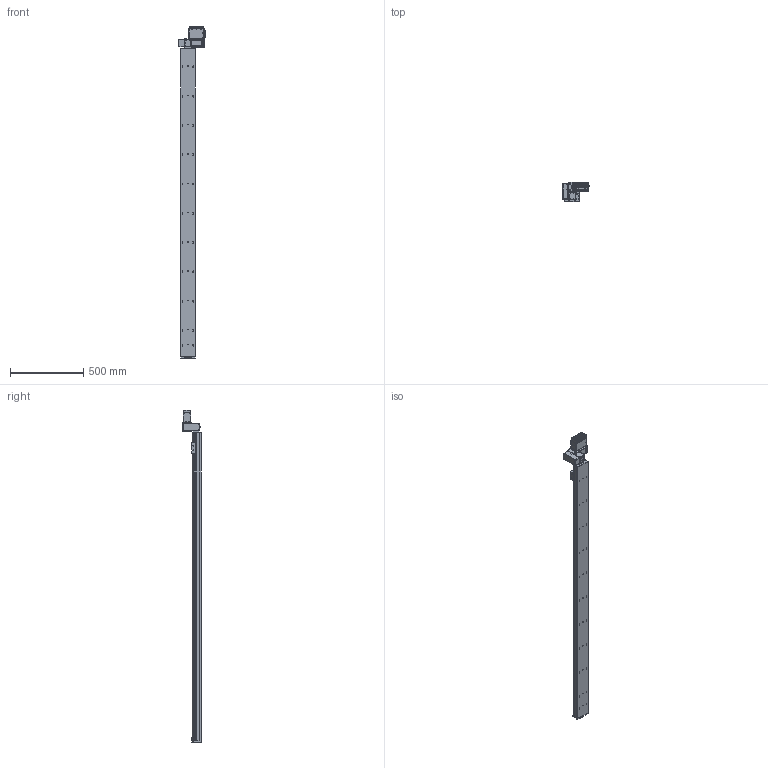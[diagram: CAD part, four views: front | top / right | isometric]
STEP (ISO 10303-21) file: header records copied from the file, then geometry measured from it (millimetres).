
FILE_DESCRIPTION (( 'STEP AP203' ), '1' );
FILE_NAME ('S10 TBN LT S2100.STEP', '2012-06-19T10:21:14', ( 'Conseil Régional Haute-Normandie' ), ( 'Conseil Régional Haute-Normandie' ), 'SwSTEP 2.0', 'SolidWorks 2010', '' );
FILE_SCHEMA (( 'CONFIG_CONTROL_DESIGN' ));
Length unit declared in the file: millimetre
Products named in the file (30): embout; Vis M5 L16-2_Default_1; palette tbn; vis M5 L5_Default; BU45 Carte d''axe A11_5; Moteur 60BLDC90A_3; Couvercle_3; Radiateur profil_X2_00E9_X0_ 100x25_3; Colonnette ronde_3; axe 2100; S10 TBN LT S2100; cache t皻e axe_Default; cache t皻e_Default; Cvis M5 L30_Default; plaque de bout s10_Default; Plaque racord_Default; renvoi LH_Default; vis M5 L12_Default; Assem1_7; T_X2_00F4_X0_le contre le moteur_5; BU41 Carte Alimentation P05_3; Colonnette_3; T_X2_00F4_X0_le fond_3; Connecteur rond D10 3cts_5; Connecteur rond D12 4cts_5; Sub D 9cts 90_X2_00B_X0__3; T_X2_00F4_X0_le Arri_X2_00E8_X0_re_5; T_X2_00F4_X0_le lat_X2_00E9_X0_rale_5; Vis TF 3 torkx_1_1; axe 2100_Default
Assembly tree (63 placements, depth 3):
  S10 TBN LT S2100
    vis M5 L12_Default  x4
    cache t皻e_Default  x2
    vis M5 L5_Default  x4
    palette tbn
    Cvis M5 L30_Default  x2
    embout
    plaque de bout s10_Default
    Vis M5 L16-2_Default_1  x4
    Assem1_7
      Vis TF 3 torkx_1_1  x21
      Moteur 60BLDC90A_3
      T_X2_00F4_X0_le fond_3
      T_X2_00F4_X0_le Arri_X2_00E8_X0_re_5
      BU45 Carte d''axe A11_5
      Connecteur rond D10 3cts_5  x2
      Connecteur rond D12 4cts_5
      Colonnette_3  x2
      Couvercle_3
      Radiateur profil_X2_00E9_X0_ 100x25_3
      Colonnette ronde_3
      T_X2_00F4_X0_le contre le moteur_5
      BU41 Carte Alimentation P05_3
      Sub D 9cts 90_X2_00B_X0__3
      T_X2_00F4_X0_le lat_X2_00E9_X0_rale_5  x2
    renvoi LH_Default
    Plaque racord_Default
    cache t皻e axe_Default
    axe 2100_Default
      axe 2100
Bounding box: 189.8 x 127 x 2266.49 mm (x, y, z)
Volume: 11688623.1 mm3; surface area: 1291948.6 mm2
Topology: 61 solids, 61 shells, 2338 faces, 5793 edges, 3742 vertices
Faces by surface type: plane 1105, cylinder 1016, cone 174, bspline 40, torus 3
Entity records: 49033 total; most frequent: CARTESIAN_POINT 8813, DIRECTION 7934, ORIENTED_EDGE 7182, EDGE_CURVE 3591, AXIS2_PLACEMENT_3D 2962, VERTEX_POINT 2346, VECTOR 2010, LINE 2010
